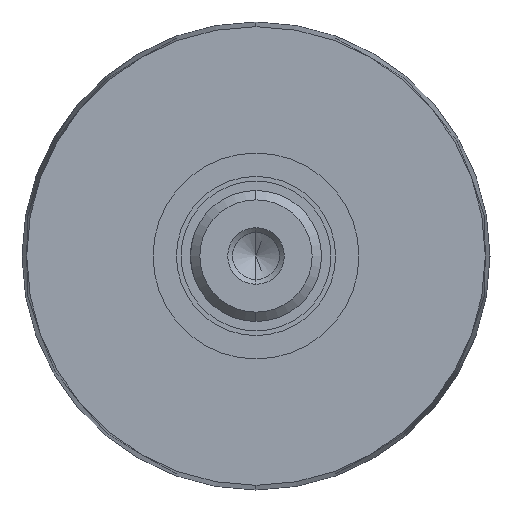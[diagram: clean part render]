
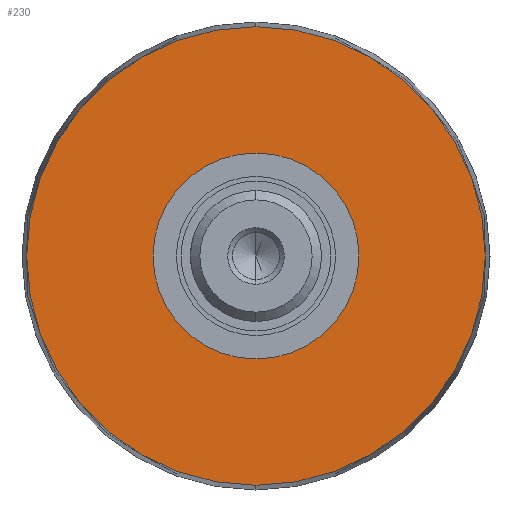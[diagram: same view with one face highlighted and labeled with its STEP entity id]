
A CAD part, left-side view. The second image highlights one B-rep face of the part: STEP entity #230.
In plain terms, the highlighted planar face has unit normal (-1, 0, 0).
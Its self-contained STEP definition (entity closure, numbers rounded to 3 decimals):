
#154 = VERTEX_POINT ( 'NONE', #596 ) ;
#156 = EDGE_CURVE ( 'NONE', #165, #158, #632, .T. ) ;
#158 = VERTEX_POINT ( 'NONE', #630 ) ;
#165 = VERTEX_POINT ( 'NONE', #615 ) ;
#218 = EDGE_CURVE ( 'NONE', #221, #154, #752, .T. ) ;
#221 = VERTEX_POINT ( 'NONE', #745 ) ;
#230 = ADVANCED_FACE ( 'NONE', ( #793, #792 ), #751, .F. ) ;
#232 = EDGE_CURVE ( 'NONE', #154, #221, #739, .T. ) ;
#268 = ORIENTED_EDGE ( 'NONE', *, *, #232, .T. ) ;
#273 = EDGE_LOOP ( 'NONE', ( #268, #275 ) ) ;
#274 = ORIENTED_EDGE ( 'NONE', *, *, #156, .F. ) ;
#275 = ORIENTED_EDGE ( 'NONE', *, *, #218, .T. ) ;
#277 = EDGE_CURVE ( 'NONE', #158, #165, #817, .T. ) ;
#280 = ORIENTED_EDGE ( 'NONE', *, *, #277, .F. ) ;
#288 = EDGE_LOOP ( 'NONE', ( #274, #280 ) ) ;
#596 = CARTESIAN_POINT ( 'NONE',  ( 99.5, 0., -24.5 ) ) ;
#615 = CARTESIAN_POINT ( 'NONE',  ( 99.5, 0., 11. ) ) ;
#626 = DIRECTION ( 'NONE',  ( 0., 0., 1. ) ) ;
#627 = DIRECTION ( 'NONE',  ( -1., 0., 0. ) ) ;
#628 = CARTESIAN_POINT ( 'NONE',  ( 99.5, 0., 0. ) ) ;
#629 = AXIS2_PLACEMENT_3D ( 'NONE', #628, #627, #626 ) ;
#630 = CARTESIAN_POINT ( 'NONE',  ( 99.5, 0., -11. ) ) ;
#632 = CIRCLE ( 'NONE', #629, 11. ) ;
#702 = AXIS2_PLACEMENT_3D ( 'NONE', #750, #749, #748 ) ;
#739 = CIRCLE ( 'NONE', #777, 24.5 ) ;
#740 = AXIS2_PLACEMENT_3D ( 'NONE', #786, #785, #784 ) ;
#745 = CARTESIAN_POINT ( 'NONE',  ( 99.5, 0., 24.5 ) ) ;
#748 = DIRECTION ( 'NONE',  ( 0., 0., 1. ) ) ;
#749 = DIRECTION ( 'NONE',  ( -1., 0., 0. ) ) ;
#750 = CARTESIAN_POINT ( 'NONE',  ( 99.5, 0., 0. ) ) ;
#751 = PLANE ( 'NONE',  #740 ) ;
#752 = CIRCLE ( 'NONE', #702, 24.5 ) ;
#774 = DIRECTION ( 'NONE',  ( 0., 0., 1. ) ) ;
#775 = DIRECTION ( 'NONE',  ( -1., 0., 0. ) ) ;
#776 = CARTESIAN_POINT ( 'NONE',  ( 99.5, 0., 0. ) ) ;
#777 = AXIS2_PLACEMENT_3D ( 'NONE', #776, #775, #774 ) ;
#784 = DIRECTION ( 'NONE',  ( 0., 0., -1. ) ) ;
#785 = DIRECTION ( 'NONE',  ( 1., 0., 0. ) ) ;
#786 = CARTESIAN_POINT ( 'NONE',  ( 99.5, 24.5, 0. ) ) ;
#792 = FACE_OUTER_BOUND ( 'NONE', #273, .T. ) ;
#793 = FACE_BOUND ( 'NONE', #288, .T. ) ;
#817 = CIRCLE ( 'NONE', #845, 11. ) ;
#843 = DIRECTION ( 'NONE',  ( 0., 0., 1. ) ) ;
#844 = DIRECTION ( 'NONE',  ( -1., 0., 0. ) ) ;
#845 = AXIS2_PLACEMENT_3D ( 'NONE', #853, #844, #843 ) ;
#853 = CARTESIAN_POINT ( 'NONE',  ( 99.5, 0., 0. ) ) ;
